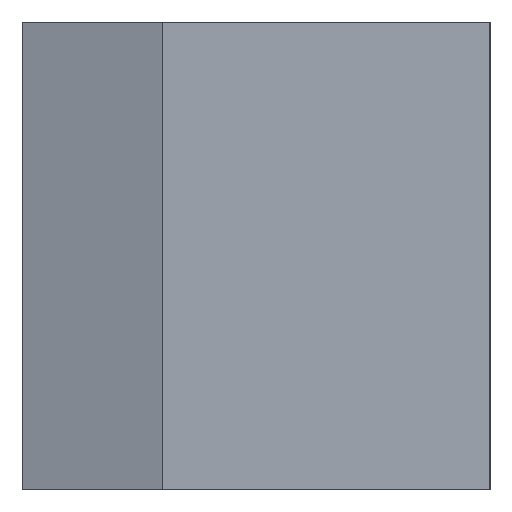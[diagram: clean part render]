
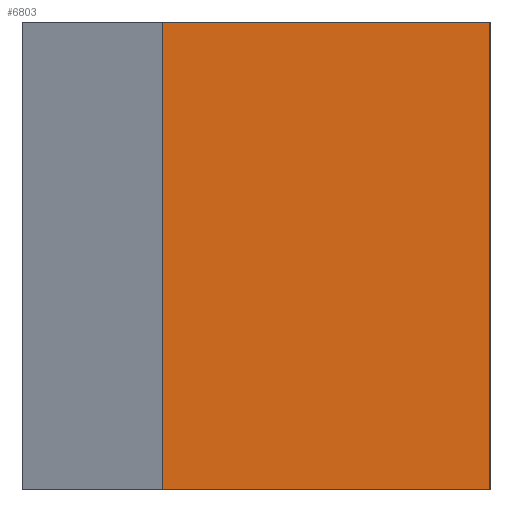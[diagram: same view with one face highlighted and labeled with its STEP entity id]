
A CAD part, left-side view. The second image highlights one B-rep face of the part: STEP entity #6803.
In plain terms, the highlighted planar face has unit normal (-1, 0, 0).
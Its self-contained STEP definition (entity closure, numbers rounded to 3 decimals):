
#337=FACE_OUTER_BOUND('',#662,.T.);
#662=EDGE_LOOP('',(#5506,#5507,#5508,#5509));
#666=LINE('',#8760,#1635);
#1631=LINE('',#10689,#2600);
#1632=LINE('',#10691,#2601);
#1633=LINE('',#10692,#2602);
#1635=VECTOR('',#7138,30.);
#2600=VECTOR('',#8745,30.);
#2601=VECTOR('',#8748,21.);
#2602=VECTOR('',#8749,21.);
#2604=VERTEX_POINT('',#8757);
#2605=VERTEX_POINT('',#8759);
#3247=VERTEX_POINT('',#10685);
#3248=VERTEX_POINT('',#10687);
#3250=EDGE_CURVE('',#2604,#2605,#666,.T.);
#4215=EDGE_CURVE('',#3247,#3248,#1631,.T.);
#4216=EDGE_CURVE('',#2604,#3247,#1632,.T.);
#4217=EDGE_CURVE('',#2605,#3248,#1633,.T.);
#5506=ORIENTED_EDGE('',*,*,#4216,.T.);
#5507=ORIENTED_EDGE('',*,*,#4215,.T.);
#5508=ORIENTED_EDGE('',*,*,#4217,.F.);
#5509=ORIENTED_EDGE('',*,*,#3250,.F.);
#6478=PLANE('',#7130);
#6803=ADVANCED_FACE('',(#337),#6478,.T.);
#7130=AXIS2_PLACEMENT_3D('',#10690,#8746,#8747);
#7138=DIRECTION('',(0.,0.,1.));
#8745=DIRECTION('',(0.,0.,1.));
#8746=DIRECTION('center_axis',(-1.,0.,0.));
#8747=DIRECTION('ref_axis',(0.,-1.,0.));
#8748=DIRECTION('',(0.,-1.,0.));
#8749=DIRECTION('',(0.,-1.,0.));
#8757=CARTESIAN_POINT('',(-6.35,16.355,0.));
#8759=CARTESIAN_POINT('',(-6.35,16.355,30.));
#8760=CARTESIAN_POINT('',(-6.35,16.355,0.));
#10685=CARTESIAN_POINT('',(-6.35,-4.645,0.));
#10687=CARTESIAN_POINT('',(-6.35,-4.645,30.));
#10689=CARTESIAN_POINT('',(-6.35,-4.645,0.));
#10690=CARTESIAN_POINT('Origin',(-6.35,16.355,0.));
#10691=CARTESIAN_POINT('',(-6.35,16.355,0.));
#10692=CARTESIAN_POINT('',(-6.35,16.355,30.));
